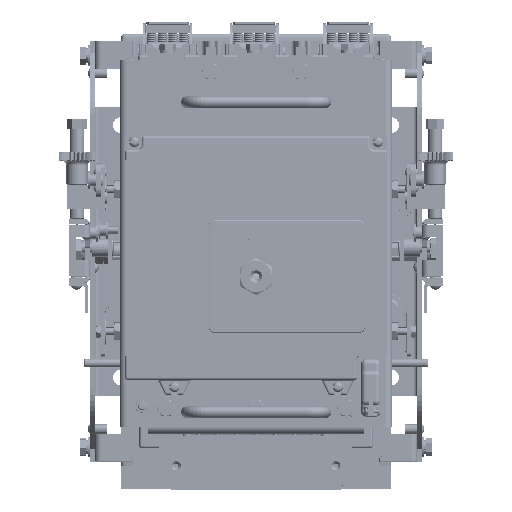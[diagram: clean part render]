
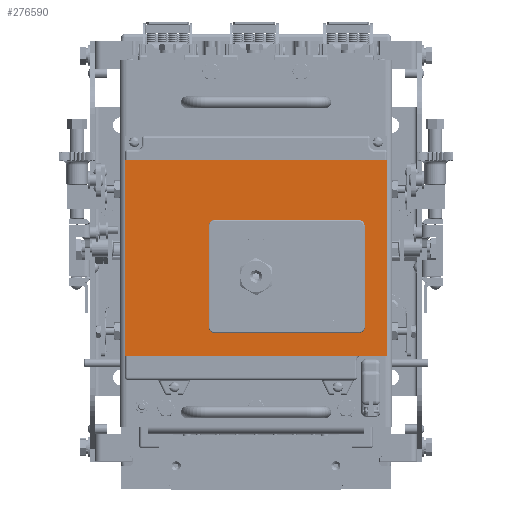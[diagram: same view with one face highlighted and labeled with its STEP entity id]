
A CAD part, top view. The second image highlights one B-rep face of the part: STEP entity #276590.
In plain terms, the highlighted planar face has unit normal (0, 0, 1).
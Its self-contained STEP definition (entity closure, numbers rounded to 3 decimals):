
#33881 = FACE_BOUND ( 'NONE', #265179, .T. ) ;
#33909 = FACE_OUTER_BOUND ( 'NONE', #265604, .T. ) ;
#42185 = AXIS2_PLACEMENT_3D ( 'NONE', #68998, #69031, #69036 ) ;
#68998 = CARTESIAN_POINT ( 'NONE',  ( 56.747, -87.357, 378.774 ) ) ;
#69013 = PLANE ( 'NONE',  #42185 ) ;
#69031 = DIRECTION ( 'NONE',  ( 0., 0., -1. ) ) ;
#69036 = DIRECTION ( 'NONE',  ( -1., 0., 0. ) ) ;
#209666 = AXIS2_PLACEMENT_3D ( 'NONE', #515819, #515827, #515835 ) ;
#209687 = AXIS2_PLACEMENT_3D ( 'NONE', #515944, #515948, #515956 ) ;
#209700 = AXIS2_PLACEMENT_3D ( 'NONE', #516049, #516055, #516061 ) ;
#209721 = AXIS2_PLACEMENT_3D ( 'NONE', #516170, #516179, #516187 ) ;
#265179 = EDGE_LOOP ( 'NONE', ( #615126, #615138, #615151, #615162, #615180, #615199, #615216, #615229 ) ) ;
#265604 = EDGE_LOOP ( 'NONE', ( #615077, #615090, #615101, #615114 ) ) ;
#276590 = ADVANCED_FACE ( 'NONE', ( #33909, #33881 ), #69013, .F. ) ;
#434128 = EDGE_CURVE ( 'NONE', #626124, #627243, #507566, .T. ) ;
#434132 = EDGE_CURVE ( 'NONE', #627004, #626124, #507584, .T. ) ;
#434137 = EDGE_CURVE ( 'NONE', #626977, #627004, #507607, .T. ) ;
#434140 = EDGE_CURVE ( 'NONE', #627243, #626977, #507627, .T. ) ;
#434144 = EDGE_CURVE ( 'NONE', #627070, #626928, #507646, .T. ) ;
#434148 = EDGE_CURVE ( 'NONE', #627070, #626329, #507670, .T. ) ;
#434152 = EDGE_CURVE ( 'NONE', #626909, #626329, #507683, .T. ) ;
#434156 = EDGE_CURVE ( 'NONE', #626909, #626551, #507706, .T. ) ;
#434160 = EDGE_CURVE ( 'NONE', #626302, #626551, #507724, .T. ) ;
#434163 = EDGE_CURVE ( 'NONE', #626302, #627284, #507677, .T. ) ;
#434168 = EDGE_CURVE ( 'NONE', #626880, #627284, #507740, .T. ) ;
#434172 = EDGE_CURVE ( 'NONE', #626880, #626928, #507786, .T. ) ;
#507566 = LINE ( 'NONE', #515383, #507575 ) ;
#507575 = VECTOR ( 'NONE', #515330, 1000. ) ;
#507584 = LINE ( 'NONE', #515506, #507602 ) ;
#507602 = VECTOR ( 'NONE', #515520, 1000. ) ;
#507607 = LINE ( 'NONE', #515559, #507618 ) ;
#507618 = VECTOR ( 'NONE', #515572, 1000. ) ;
#507627 = LINE ( 'NONE', #515610, #507638 ) ;
#507638 = VECTOR ( 'NONE', #515625, 1000. ) ;
#507646 = LINE ( 'NONE', #515704, #507662 ) ;
#507662 = VECTOR ( 'NONE', #515665, 1000. ) ;
#507670 = CIRCLE ( 'NONE', #209666, 5. ) ;
#507677 = CIRCLE ( 'NONE', #209700, 5. ) ;
#507683 = LINE ( 'NONE', #515730, #507698 ) ;
#507698 = VECTOR ( 'NONE', #515809, 1000. ) ;
#507706 = CIRCLE ( 'NONE', #209687, 5. ) ;
#507724 = LINE ( 'NONE', #515928, #507734 ) ;
#507734 = VECTOR ( 'NONE', #515935, 1000. ) ;
#507740 = LINE ( 'NONE', #516074, #507779 ) ;
#507779 = VECTOR ( 'NONE', #516033, 1000. ) ;
#507786 = CIRCLE ( 'NONE', #209721, 5. ) ;
#515330 = DIRECTION ( 'NONE',  ( 0., -1., 0. ) ) ;
#515383 = CARTESIAN_POINT ( 'NONE',  ( 81.747, -67.357, 378.774 ) ) ;
#515506 = CARTESIAN_POINT ( 'NONE',  ( -136.253, 95.643, 378.774 ) ) ;
#515520 = DIRECTION ( 'NONE',  ( 1., 0., 0. ) ) ;
#515559 = CARTESIAN_POINT ( 'NONE',  ( -136.253, -87.357, 378.774 ) ) ;
#515572 = DIRECTION ( 'NONE',  ( 0., 1., 0. ) ) ;
#515610 = CARTESIAN_POINT ( 'NONE',  ( 56.747, -67.357, 378.774 ) ) ;
#515625 = DIRECTION ( 'NONE',  ( -1., 0., 0. ) ) ;
#515665 = DIRECTION ( 'NONE',  ( 0., -1., 0. ) ) ;
#515704 = CARTESIAN_POINT ( 'NONE',  ( -66.753, -48.357, 378.774 ) ) ;
#515730 = CARTESIAN_POINT ( 'NONE',  ( -66.753, 45.643, 378.774 ) ) ;
#515809 = DIRECTION ( 'NONE',  ( -1., 0., 0. ) ) ;
#515819 = CARTESIAN_POINT ( 'NONE',  ( -61.753, 40.643, 378.774 ) ) ;
#515827 = DIRECTION ( 'NONE',  ( 0., 0., -1. ) ) ;
#515835 = DIRECTION ( 'NONE',  ( -1., 0., 0. ) ) ;
#515928 = CARTESIAN_POINT ( 'NONE',  ( 63.247, -48.357, 378.774 ) ) ;
#515935 = DIRECTION ( 'NONE',  ( 0., 1., 0. ) ) ;
#515944 = CARTESIAN_POINT ( 'NONE',  ( 58.247, 40.643, 378.774 ) ) ;
#515948 = DIRECTION ( 'NONE',  ( 0., 0., -1. ) ) ;
#515956 = DIRECTION ( 'NONE',  ( -1., 0., 0. ) ) ;
#516033 = DIRECTION ( 'NONE',  ( 1., 0., 0. ) ) ;
#516049 = CARTESIAN_POINT ( 'NONE',  ( 58.247, -43.357, 378.774 ) ) ;
#516055 = DIRECTION ( 'NONE',  ( 0., 0., -1. ) ) ;
#516061 = DIRECTION ( 'NONE',  ( -1., 0., 0. ) ) ;
#516074 = CARTESIAN_POINT ( 'NONE',  ( -66.753, -48.357, 378.774 ) ) ;
#516170 = CARTESIAN_POINT ( 'NONE',  ( -61.753, -43.357, 378.774 ) ) ;
#516179 = DIRECTION ( 'NONE',  ( 0., 0., -1. ) ) ;
#516187 = DIRECTION ( 'NONE',  ( -1., 0., 0. ) ) ;
#615077 = ORIENTED_EDGE ( 'NONE', *, *, #434128, .F. ) ;
#615090 = ORIENTED_EDGE ( 'NONE', *, *, #434132, .F. ) ;
#615101 = ORIENTED_EDGE ( 'NONE', *, *, #434137, .F. ) ;
#615114 = ORIENTED_EDGE ( 'NONE', *, *, #434140, .F. ) ;
#615126 = ORIENTED_EDGE ( 'NONE', *, *, #434144, .F. ) ;
#615138 = ORIENTED_EDGE ( 'NONE', *, *, #434148, .T. ) ;
#615151 = ORIENTED_EDGE ( 'NONE', *, *, #434152, .F. ) ;
#615162 = ORIENTED_EDGE ( 'NONE', *, *, #434156, .T. ) ;
#615180 = ORIENTED_EDGE ( 'NONE', *, *, #434160, .F. ) ;
#615199 = ORIENTED_EDGE ( 'NONE', *, *, #434163, .T. ) ;
#615216 = ORIENTED_EDGE ( 'NONE', *, *, #434168, .F. ) ;
#615229 = ORIENTED_EDGE ( 'NONE', *, *, #434172, .T. ) ;
#616358 = CARTESIAN_POINT ( 'NONE',  ( 81.747, 95.643, 378.774 ) ) ;
#616749 = CARTESIAN_POINT ( 'NONE',  ( 63.247, -43.357, 378.774 ) ) ;
#616788 = CARTESIAN_POINT ( 'NONE',  ( -61.753, 45.643, 378.774 ) ) ;
#617207 = CARTESIAN_POINT ( 'NONE',  ( 63.247, 40.643, 378.774 ) ) ;
#617876 = CARTESIAN_POINT ( 'NONE',  ( -61.753, -48.357, 378.774 ) ) ;
#626124 = VERTEX_POINT ( 'NONE', #616358 ) ;
#626302 = VERTEX_POINT ( 'NONE', #616749 ) ;
#626329 = VERTEX_POINT ( 'NONE', #616788 ) ;
#626551 = VERTEX_POINT ( 'NONE', #617207 ) ;
#626880 = VERTEX_POINT ( 'NONE', #617876 ) ;
#626909 = VERTEX_POINT ( 'NONE', #661513 ) ;
#626928 = VERTEX_POINT ( 'NONE', #661539 ) ;
#626977 = VERTEX_POINT ( 'NONE', #661734 ) ;
#627004 = VERTEX_POINT ( 'NONE', #661812 ) ;
#627070 = VERTEX_POINT ( 'NONE', #661918 ) ;
#627243 = VERTEX_POINT ( 'NONE', #662935 ) ;
#627284 = VERTEX_POINT ( 'NONE', #663131 ) ;
#661513 = CARTESIAN_POINT ( 'NONE',  ( 58.247, 45.643, 378.774 ) ) ;
#661539 = CARTESIAN_POINT ( 'NONE',  ( -66.753, -43.357, 378.774 ) ) ;
#661734 = CARTESIAN_POINT ( 'NONE',  ( -136.253, -67.357, 378.774 ) ) ;
#661812 = CARTESIAN_POINT ( 'NONE',  ( -136.253, 95.643, 378.774 ) ) ;
#661918 = CARTESIAN_POINT ( 'NONE',  ( -66.753, 40.643, 378.774 ) ) ;
#662935 = CARTESIAN_POINT ( 'NONE',  ( 81.747, -67.357, 378.774 ) ) ;
#663131 = CARTESIAN_POINT ( 'NONE',  ( 58.247, -48.357, 378.774 ) ) ;
